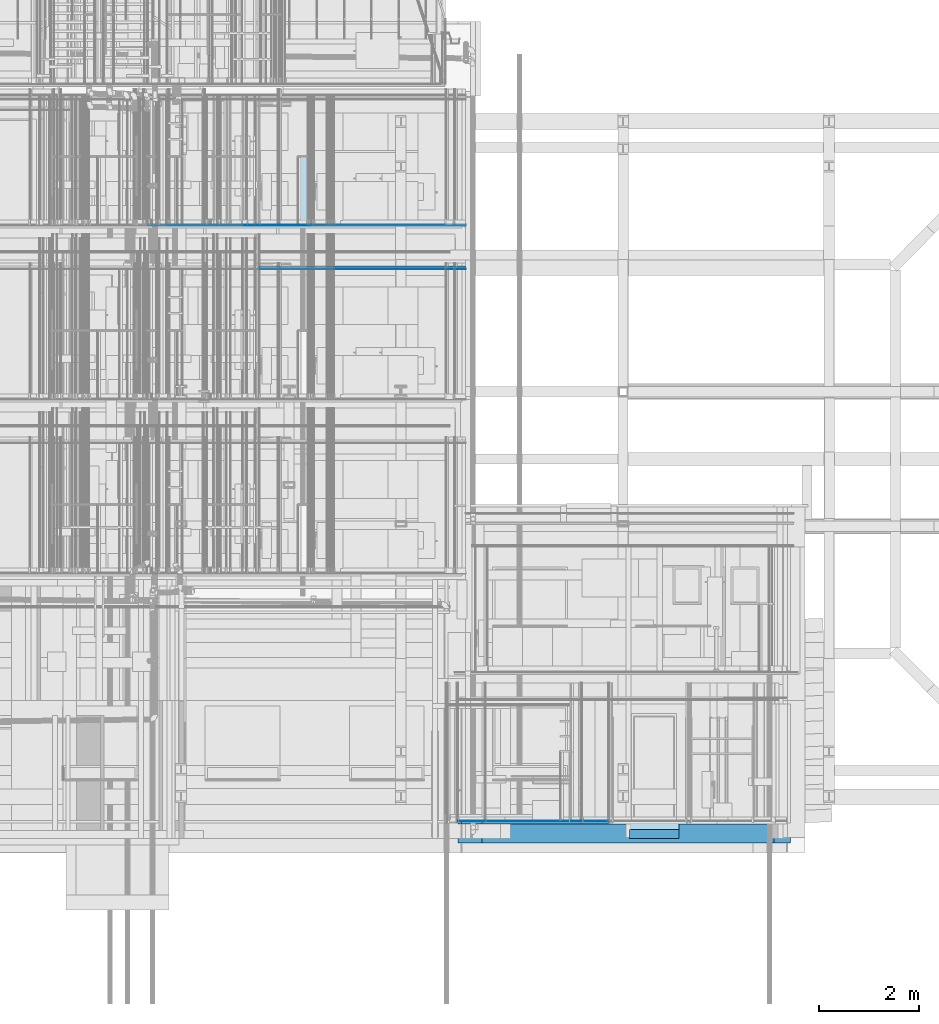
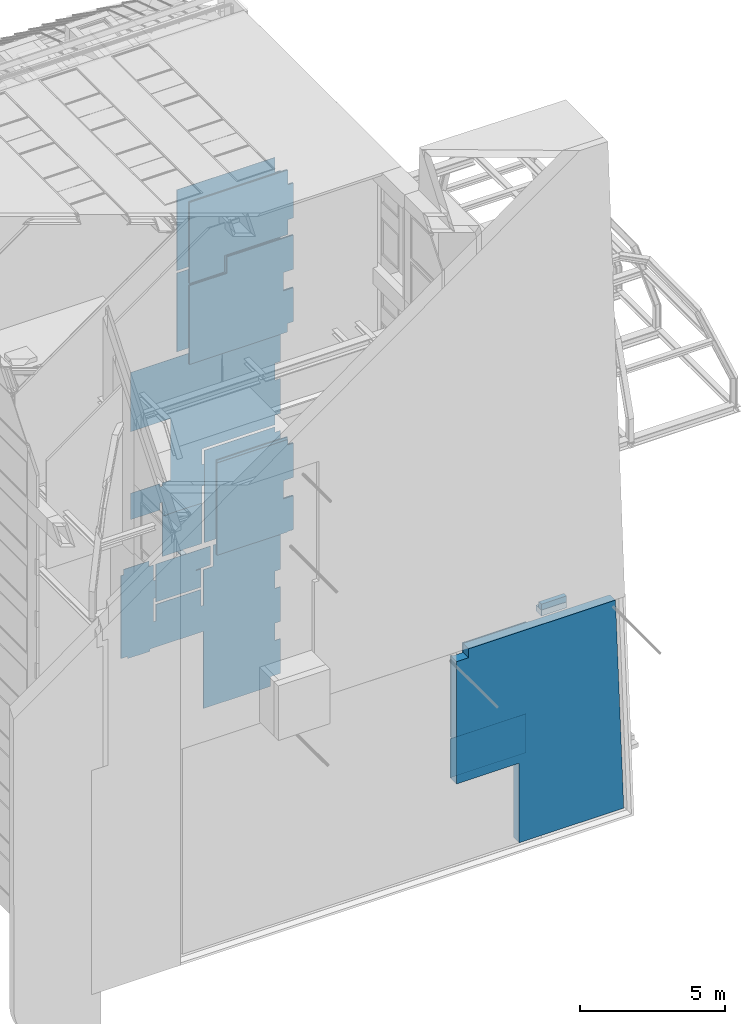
# One storey, part 258 of 583: 21 slabs.
"""IFC2X3 building model written with IfcOpenShell, lengths in metres."""

from ifc_helpers import new_model, entity, si_unit, converted_unit, derived_unit, money_unit, direction, frame, origin_with_axes, place, context, subcontext, project, spatial, faceted_brep, material, type_object, element, save


model = new_model("IFC2X3")

# Units and contexts
model_context = context("Model", 3, precision=1e-05, world=origin_with_axes(), true_north=direction((0.0, 1.0)))
body_context = subcontext(model_context, "Body", "Model", "MODEL_VIEW", scale=1.0)
ifc_project = project(units=[si_unit("LENGTHUNIT", "METRE"), si_unit("AREAUNIT", "SQUARE_METRE"), si_unit("VOLUMEUNIT", "CUBIC_METRE"), si_unit("ABSORBEDDOSEUNIT", "GRAY"), si_unit("AMOUNTOFSUBSTANCEUNIT", "MOLE"), si_unit("DOSEEQUIVALENTUNIT", "SIEVERT"), si_unit("ELECTRICCAPACITANCEUNIT", "FARAD"), si_unit("ELECTRICCHARGEUNIT", "COULOMB"), si_unit("ELECTRICCONDUCTANCEUNIT", "SIEMENS"), si_unit("ELECTRICCURRENTUNIT", "AMPERE"), si_unit("ELECTRICRESISTANCEUNIT", "OHM"), si_unit("ELECTRICVOLTAGEUNIT", "VOLT"), si_unit("ENERGYUNIT", "JOULE"), si_unit("FORCEUNIT", "NEWTON"), si_unit("FREQUENCYUNIT", "HERTZ"), si_unit("ILLUMINANCEUNIT", "LUX"), si_unit("INDUCTANCEUNIT", "HENRY"), si_unit("LUMINOUSFLUXUNIT", "LUMEN"), si_unit("LUMINOUSINTENSITYUNIT", "CANDELA"), si_unit("MAGNETICFLUXDENSITYUNIT", "TESLA"), si_unit("MAGNETICFLUXUNIT", "WEBER"), si_unit("MASSUNIT", "GRAM"), converted_unit("PLANEANGLEUNIT", "degree", entity("IfcReal", 0.0174532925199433), si_unit("PLANEANGLEUNIT", "RADIAN"), dimensions=[0, 0, 0, 0, 0, 0, 0]), si_unit("POWERUNIT", "WATT"), si_unit("PRESSUREUNIT", "PASCAL"), si_unit("RADIOACTIVITYUNIT", "BECQUEREL"), si_unit("SOLIDANGLEUNIT", "STERADIAN"), si_unit("THERMODYNAMICTEMPERATUREUNIT", "KELVIN"), si_unit("TIMEUNIT", "SECOND"), derived_unit("ACCELERATIONUNIT", [(si_unit("LENGTHUNIT", "METRE"), 1), (si_unit("TIMEUNIT", "SECOND"), -2)]), derived_unit("ANGULARVELOCITYUNIT", [(converted_unit("PLANEANGLEUNIT", "degree", entity("IfcReal", 0.0174532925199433), si_unit("PLANEANGLEUNIT", "RADIAN"), dimensions=[0, 0, 0, 0, 0, 0, 0]), 1), (si_unit("TIMEUNIT", "SECOND"), -1)]), derived_unit("CURVATUREUNIT", [(converted_unit("PLANEANGLEUNIT", "degree", entity("IfcReal", 0.0174532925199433), si_unit("PLANEANGLEUNIT", "RADIAN"), dimensions=[0, 0, 0, 0, 0, 0, 0]), 1), (si_unit("LENGTHUNIT", "METRE"), -1)]), derived_unit("DYNAMICVISCOSITYUNIT", [(si_unit("PRESSUREUNIT", "PASCAL"), 1), (si_unit("TIMEUNIT", "SECOND"), 1)]), derived_unit("HEATFLUXDENSITYUNIT", [(si_unit("POWERUNIT", "WATT"), 1), (si_unit("LENGTHUNIT", "METRE"), -2)]), derived_unit("HEATINGVALUEUNIT", [(si_unit("ENERGYUNIT", "JOULE"), 1), (si_unit("MASSUNIT", "GRAM"), -1)]), derived_unit("INTEGERCOUNTRATEUNIT", [(si_unit("TIMEUNIT", "SECOND"), -1)]), derived_unit("IONCONCENTRATIONUNIT", [(si_unit("MASSUNIT", "GRAM"), 1), (si_unit("VOLUMEUNIT", "CUBIC_METRE"), -1)]), derived_unit("ISOTHERMALMOISTURECAPACITYUNIT", [(si_unit("VOLUMEUNIT", "CUBIC_METRE"), 1), (si_unit("MASSUNIT", "GRAM"), -1)]), derived_unit("KINEMATICVISCOSITYUNIT", [(si_unit("AREAUNIT", "SQUARE_METRE"), 1), (si_unit("TIMEUNIT", "SECOND"), -1)]), derived_unit("LINEARFORCEUNIT", [(si_unit("FORCEUNIT", "NEWTON"), 1), (si_unit("LENGTHUNIT", "METRE"), -1)]), derived_unit("LINEARMOMENTUNIT", [(si_unit("FORCEUNIT", "NEWTON"), 1), (si_unit("LENGTHUNIT", "METRE"), -1)]), derived_unit("LINEARSTIFFNESSUNIT", [(si_unit("FORCEUNIT", "NEWTON"), 1), (si_unit("LENGTHUNIT", "METRE"), -1)]), derived_unit("LINEARVELOCITYUNIT", [(si_unit("LENGTHUNIT", "METRE"), 1), (si_unit("TIMEUNIT", "SECOND"), -1)]), derived_unit("LUMINOUSINTENSITYDISTRIBUTIONUNIT", [(si_unit("LUMINOUSINTENSITYUNIT", "CANDELA"), 1), (si_unit("LUMINOUSFLUXUNIT", "LUMEN"), -1)]), derived_unit("MASSDENSITYUNIT", [(si_unit("MASSUNIT", "GRAM"), 1), (si_unit("VOLUMEUNIT", "CUBIC_METRE"), -1)]), derived_unit("MASSFLOWRATEUNIT", [(si_unit("MASSUNIT", "GRAM"), 1), (si_unit("TIMEUNIT", "SECOND"), -1)]), derived_unit("MASSPERLENGTHUNIT", [(si_unit("MASSUNIT", "GRAM"), 1), (si_unit("LENGTHUNIT", "METRE"), -1)]), derived_unit("MODULUSOFELASTICITYUNIT", [(si_unit("FORCEUNIT", "NEWTON"), 1), (si_unit("AREAUNIT", "SQUARE_METRE"), -1)]), derived_unit("MODULUSOFLINEARSUBGRADEREACTIONUNIT", [(si_unit("FORCEUNIT", "NEWTON"), 1), (si_unit("LENGTHUNIT", "METRE"), -2)]), derived_unit("MODULUSOFROTATIONALSUBGRADEREACTIONUNIT", [(si_unit("FORCEUNIT", "NEWTON"), 1), (si_unit("LENGTHUNIT", "METRE"), 1)]), derived_unit("MODULUSOFSUBGRADEREACTIONUNIT", [(si_unit("FORCEUNIT", "NEWTON"), 1), (si_unit("VOLUMEUNIT", "CUBIC_METRE"), -1)]), derived_unit("MOISTUREDIFFUSIVITYUNIT", [(si_unit("VOLUMEUNIT", "CUBIC_METRE"), 1), (si_unit("TIMEUNIT", "SECOND"), -1)]), derived_unit("MOLECULARWEIGHTUNIT", [(si_unit("MASSUNIT", "GRAM"), 1), (si_unit("AMOUNTOFSUBSTANCEUNIT", "MOLE"), -1)]), derived_unit("PLANARFORCEUNIT", [(si_unit("FORCEUNIT", "NEWTON"), 1), (si_unit("LENGTHUNIT", "METRE"), -2)]), derived_unit("ROTATIONALFREQUENCYUNIT", [(si_unit("TIMEUNIT", "SECOND"), -1)]), derived_unit("ROTATIONALMASSUNIT", [(si_unit("MASSUNIT", "GRAM"), 1), (si_unit("LENGTHUNIT", "METRE"), 2)]), derived_unit("ROTATIONALSTIFFNESSUNIT", [(si_unit("FORCEUNIT", "NEWTON"), 1), (si_unit("LENGTHUNIT", "METRE"), 1), (converted_unit("PLANEANGLEUNIT", "degree", entity("IfcReal", 0.0174532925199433), si_unit("PLANEANGLEUNIT", "RADIAN"), dimensions=[0, 0, 0, 0, 0, 0, 0]), -1)]), derived_unit("SECTIONAREAINTEGRALUNIT", [(si_unit("LENGTHUNIT", "METRE"), 5)]), derived_unit("SECTIONMODULUSUNIT", [(si_unit("LENGTHUNIT", "METRE"), 3)]), derived_unit("SHEARMODULUSUNIT", [(si_unit("FORCEUNIT", "NEWTON"), 1), (si_unit("AREAUNIT", "SQUARE_METRE"), -1)]), derived_unit("SOUNDPOWERUNIT", [(si_unit("ENERGYUNIT", "JOULE"), 1), (si_unit("TIMEUNIT", "SECOND"), -1)]), derived_unit("SPECIFICHEATCAPACITYUNIT", [(si_unit("FORCEUNIT", "NEWTON"), 1), (si_unit("MASSUNIT", "GRAM"), -1), (si_unit("THERMODYNAMICTEMPERATUREUNIT", "KELVIN"), -1)]), derived_unit("TEMPERATUREGRADIENTUNIT", [(si_unit("THERMODYNAMICTEMPERATUREUNIT", "KELVIN"), 1), (si_unit("LENGTHUNIT", "METRE"), -1)]), derived_unit("THERMALADMITTANCEUNIT", [(si_unit("POWERUNIT", "WATT"), 1), (si_unit("AREAUNIT", "SQUARE_METRE"), -1), (si_unit("THERMODYNAMICTEMPERATUREUNIT", "KELVIN"), -1)]), derived_unit("THERMALCONDUCTANCEUNIT", [(si_unit("POWERUNIT", "WATT"), 1), (si_unit("LENGTHUNIT", "METRE"), -1), (si_unit("THERMODYNAMICTEMPERATUREUNIT", "KELVIN"), -1)]), derived_unit("THERMALEXPANSIONCOEFFICIENTUNIT", [(si_unit("THERMODYNAMICTEMPERATUREUNIT", "KELVIN"), -1)]), derived_unit("THERMALRESISTANCEUNIT", [(si_unit("AREAUNIT", "SQUARE_METRE"), 1), (si_unit("POWERUNIT", "WATT"), -1)]), derived_unit("THERMALTRANSMITTANCEUNIT", [(si_unit("POWERUNIT", "WATT"), 1), (si_unit("AREAUNIT", "SQUARE_METRE"), -1), (si_unit("THERMODYNAMICTEMPERATUREUNIT", "KELVIN"), -1)]), derived_unit("TORQUEUNIT", [(si_unit("FORCEUNIT", "NEWTON"), 1), (si_unit("LENGTHUNIT", "METRE"), 1)]), derived_unit("VAPORPERMEABILITYUNIT", [(si_unit("MASSUNIT", "GRAM"), 1), (si_unit("TIMEUNIT", "SECOND"), -1)]), derived_unit("VOLUMETRICFLOWRATEUNIT", [(si_unit("VOLUMEUNIT", "CUBIC_METRE"), 1), (si_unit("TIMEUNIT", "SECOND"), -1)]), derived_unit("WARPINGCONSTANTUNIT", [(si_unit("LENGTHUNIT", "METRE"), 6)]), derived_unit("WARPINGMOMENTUNIT", [(si_unit("FORCEUNIT", "NEWTON"), 1), (si_unit("LENGTHUNIT", "METRE"), 2)]), money_unit("GBP")], contexts=[model_context])

# Site, building, storey
site_placement = place(None, origin_with_axes())
site = spatial("IfcSite", under=ifc_project, at=site_placement, Name="Site", CompositionType="ELEMENT")
building_placement = place(site_placement, origin_with_axes())
building = spatial("IfcBuilding", under=site, at=building_placement, Name="Building01", CompositionType="ELEMENT")
storey_placement = place(building_placement, frame((0.0, 0.0, 20.78), z_axis=(0.0, 0.0, 1.0), x_axis=(1.0, 0.0, 0.0)))
storey = spatial("IfcBuildingStorey", under=building, at=storey_placement, Name="RL", CompositionType="ELEMENT", Elevation=20.78)

# Slabs
ifc_material_1 = material(Name="A_BSUK_Slabs")
slab_type_1 = type_object("IfcSlabType", Name="A-FloorsSlabs A_BSUK_Slabs", PredefinedType="FLOOR")
placement = place(storey_placement, frame((0.0, 0.0, -20.78), z_axis=(0.0, 0.0, 1.0), x_axis=(1.0, 0.0, 0.0)))
element("IfcSlab", 1, at=placement, inside=storey, type_object=slab_type_1, material=ifc_material_1, Name="A-FloorsSlabs A_BSUK_Slabs", ObjectType="CompoundSlabLeaf", context=body_context, shape_type="Brep", body=[
    faceted_brep([(18.083912, -0.162, 9.443418), (18.083912, 0.198, 9.443418), (19.083912, 0.198, 9.443418), (19.083912, -0.162, 9.443418), (18.083912, -0.162, 9.693418), (18.083912, 0.198, 9.693418), (19.083912, -0.162, 9.693418), (19.083912, 0.198, 9.693418)], [[[0, 1, 2, 3]], [[4, 5, 1, 0]], [[6, 7, 5, 4]], [[3, 2, 7, 6]], [[1, 5, 7, 2]], [[3, 6, 4, 0]]]),
])
element("IfcSlab", 2, at=placement, inside=storey, type_object=slab_type_1, material=ifc_material_1, Name="A-FloorsSlabs A_BSUK_Slabs", ObjectType="CompoundSlabLeaf", context=body_context, shape_type="Brep", body=[
    faceted_brep([(18.083912, -0.162, 9.693418), (18.083912, 0.018, 9.693418), (19.083912, 0.018, 9.693418), (19.083912, -0.162, 9.693418), (18.083912, -0.162, 9.943418), (18.083912, 0.018, 9.943418), (19.083912, -0.162, 9.943418), (19.083912, 0.018, 9.943418)], [[[0, 1, 2, 3]], [[4, 5, 1, 0]], [[6, 7, 5, 4]], [[3, 2, 7, 6]], [[1, 5, 7, 2]], [[3, 6, 4, 0]]]),
])
element("IfcSlab", 3, at=placement, inside=storey, type_object=slab_type_1, material=ifc_material_1, Name="A-FloorsSlabs A_BSUK_Slabs", ObjectType="CompoundSlabLeaf", context=body_context, shape_type="Brep", body=[
    faceted_brep([(17.143647, -0.252, 0.28086), (17.143647, 0.128, 0.28086), (21.315124, 0.128, 0.280897), (21.315124, -0.252, 0.280897), (17.143618, -0.252, 3.630525), (17.143618, 0.128, 3.630525), (14.65, -0.252, 3.630503), (14.65, 0.128, 3.630503), (14.649955, -0.252, 8.775264), (14.649955, 0.128, 8.775264), (15.127892, -0.252, 8.775269), (15.127892, 0.128, 8.775269), (15.127888, -0.252, 9.154265), (15.127888, 0.128, 9.154265), (20.985941, -0.252, 9.154317), (20.985941, 0.128, 9.154317)], [[[0, 1, 2, 3]], [[4, 5, 1, 0]], [[6, 7, 5, 4]], [[8, 9, 7, 6]], [[10, 11, 9, 8]], [[12, 13, 11, 10]], [[14, 15, 13, 12]], [[3, 2, 15, 14]], [[1, 5, 7, 9, 11, 13, 15, 2]], [[3, 14, 12, 10, 8, 6, 4, 0]]]),
])
ifc_material_2 = material(Name="A_BSUK_Carpet-Pile")
element("IfcSlab", 4, at=placement, inside=storey, type_object=slab_type_1, material=ifc_material_2, Name="A-FloorsSlabs A_BSUK_Slabs", ObjectType="CompoundSlabLeaf", context=body_context, shape_type="Brep", body=[
    faceted_brep([(14.65, 0.178, 5.354256), (14.65, 0.19, 5.354256), (17.663571, 0.19, 5.354256), (17.663571, 0.178, 5.354256), (14.65, 0.178, 8.775265), (14.65, 0.19, 8.775265), (14.721892, 0.178, 8.775265), (14.721892, 0.19, 8.775265), (14.721892, 0.178, 8.705291), (14.721892, 0.19, 8.705291), (15.127892, 0.178, 8.705291), (15.127892, 0.19, 8.705291), (15.127892, 0.178, 9.154265), (15.127892, 0.19, 9.154265), (17.663571, 0.178, 9.154265), (17.663571, 0.19, 9.154265)], [[[0, 1, 2, 3]], [[4, 5, 1, 0]], [[6, 7, 5, 4]], [[8, 9, 7, 6]], [[10, 11, 9, 8]], [[12, 13, 11, 10]], [[14, 15, 13, 12]], [[3, 2, 15, 14]], [[1, 5, 7, 9, 11, 13, 15, 2]], [[3, 14, 12, 10, 8, 6, 4, 0]]]),
])
ifc_material_3 = material(Name="A_BSUK_Parquet_Floor")
element("IfcSlab", 5, at=placement, inside=storey, type_object=slab_type_1, material=ifc_material_3, Name="A-FloorsSlabs A_BSUK_Slabs", ObjectType="CompoundSlabLeaf", context=body_context, shape_type="Brep", body=[
    faceted_brep([(17.663571, 0.178, 3.630525), (17.663571, 0.19, 3.630525), (17.663571, 0.19, 5.274256), (17.663571, 0.178, 5.274256), (14.65, 0.178, 3.630525), (14.65, 0.19, 3.630525), (14.65, 0.178, 5.274256), (14.65, 0.19, 5.274256)], [[[0, 1, 2, 3]], [[4, 5, 1, 0]], [[6, 7, 5, 4]], [[3, 2, 7, 6]], [[1, 5, 7, 2]], [[3, 6, 4, 0]]]),
])
element("IfcSlab", 6, at=placement, inside=storey, type_object=slab_type_1, material=ifc_material_3, Name="A-FloorsSlabs A_BSUK_Slabs", ObjectType="CompoundSlabLeaf", context=body_context, shape_type="Brep", body=[
    faceted_brep([(9.550704, 12.133, 7.289669), (9.550704, 12.145, 7.289669), (8.550704, 12.145, 7.289669), (8.550704, 12.133, 7.289669), (9.550704, 12.133, 7.064669), (9.550704, 12.145, 7.064669), (9.73567, 12.133, 7.064669), (9.73567, 12.145, 7.064669), (9.73567, 12.133, 6.398669), (9.73567, 12.145, 6.398669), (9.83067, 12.133, 6.398669), (9.83067, 12.145, 6.398669), (9.83067, 12.133, 5.648669), (9.83067, 12.145, 5.648669), (9.73567, 12.133, 5.648669), (9.73567, 12.145, 5.648669), (9.73567, 12.133, 4.669669), (9.73567, 12.145, 4.669669), (9.83067, 12.133, 4.669669), (9.83067, 12.145, 4.669669), (9.83067, 12.133, 5.369669), (9.83067, 12.145, 5.369669), (11.63067, 12.133, 5.369669), (11.63067, 12.145, 5.369669), (11.63067, 12.133, 4.669669), (11.63067, 12.145, 4.669669), (11.72567, 12.133, 4.669669), (11.72567, 12.145, 4.669669), (11.72567, 12.133, 4.719669), (11.72567, 12.145, 4.719669), (11.72567, 12.133, 6.169669), (11.72567, 12.145, 6.169669), (12.11067, 12.133, 6.169669), (12.11067, 12.145, 6.169669), (12.11067, 12.133, 7.064669), (12.11067, 12.145, 7.064669), (14.582, 12.133, 7.064669), (14.582, 12.145, 7.064669), (14.582, 12.133, 6.574876), (14.582, 12.145, 6.574876), (14.8, 12.133, 6.574876), (14.8, 12.145, 6.574876), (14.8, 12.133, 5.105), (14.8, 12.145, 5.105), (14.582, 12.133, 5.105), (14.582, 12.145, 5.105), (14.582, 12.133, 4.385), (14.582, 12.145, 4.385), (14.8, 12.133, 4.385), (14.8, 12.145, 4.385), (14.8, 12.133, 2.915), (14.8, 12.145, 2.915), (14.582, 12.133, 2.915), (14.582, 12.145, 2.915), (14.582, 12.133, 2.195), (14.582, 12.145, 2.195), (14.8, 12.133, 2.195), (14.8, 12.145, 2.195), (14.8, 12.133, 0.725), (14.8, 12.145, 0.725), (14.582, 12.133, 0.725), (14.582, 12.145, 0.725), (14.402, 12.133, 0.725), (14.402, 12.145, 0.725), (14.402, 12.133, 0.318), (14.402, 12.145, 0.318), (11.72567, 12.133, 0.318), (11.72567, 12.145, 0.318), (11.72567, 12.133, 3.569669), (11.72567, 12.145, 3.569669), (9.600704, 12.133, 3.569669), (9.600704, 12.145, 3.569669), (9.600704, 12.133, 3.474669), (9.600704, 12.145, 3.474669), (8.700704, 12.133, 3.474669), (8.700704, 12.145, 3.474669), (8.700704, 12.133, 3.569669), (8.700704, 12.145, 3.569669), (8.43567, 12.133, 3.569669), (8.43567, 12.145, 3.569669), (8.43567, 12.133, 7.064669), (8.43567, 12.145, 7.064669), (8.550704, 12.133, 7.064669), (8.550704, 12.145, 7.064669)], [[[0, 1, 2, 3]], [[4, 5, 1, 0]], [[6, 7, 5, 4]], [[8, 9, 7, 6]], [[10, 11, 9, 8]], [[12, 13, 11, 10]], [[14, 15, 13, 12]], [[16, 17, 15, 14]], [[18, 19, 17, 16]], [[20, 21, 19, 18]], [[22, 23, 21, 20]], [[24, 25, 23, 22]], [[26, 27, 25, 24]], [[28, 29, 27, 26]], [[30, 31, 29, 28]], [[32, 33, 31, 30]], [[34, 35, 33, 32]], [[36, 37, 35, 34]], [[38, 39, 37, 36]], [[40, 41, 39, 38]], [[42, 43, 41, 40]], [[44, 45, 43, 42]], [[46, 47, 45, 44]], [[48, 49, 47, 46]], [[50, 51, 49, 48]], [[52, 53, 51, 50]], [[54, 55, 53, 52]], [[56, 57, 55, 54]], [[58, 59, 57, 56]], [[60, 61, 59, 58]], [[62, 63, 61, 60]], [[64, 65, 63, 62]], [[66, 67, 65, 64]], [[68, 69, 67, 66]], [[70, 71, 69, 68]], [[72, 73, 71, 70]], [[74, 75, 73, 72]], [[76, 77, 75, 74]], [[78, 79, 77, 76]], [[80, 81, 79, 78]], [[82, 83, 81, 80]], [[3, 2, 83, 82]], [[1, 5, 7, 9, 11, 13, 15, 17, 19, 21, 23, 25, 27, 29, 31, 33, 35, 37, 39, 41, 43, 45, 47, 49, 51, 53, 55, 57, 59, 61, 63, 65, 67, 69, 71, 73, 75, 77, 79, 81, 83, 2]], [[3, 82, 80, 78, 76, 74, 72, 70, 68, 66, 64, 62, 60, 58, 56, 54, 52, 50, 48, 46, 44, 42, 40, 38, 36, 34, 32, 30, 28, 26, 24, 22, 20, 18, 16, 14, 12, 10, 8, 6, 4, 0]]]),
])
ifc_material_4 = material(Name="A_BSUK_Ceramic_FloorTiles")
element("IfcSlab", 7, at=placement, inside=storey, type_object=slab_type_1, material=ifc_material_4, Name="A-FloorsSlabs A_BSUK_Slabs", ObjectType="CompoundSlabLeaf", context=body_context, shape_type="Brep", body=[
    faceted_brep([(10.53067, 12.133, 5.464669), (10.53067, 12.145, 5.464669), (11.63067, 12.145, 5.464669), (11.63067, 12.133, 5.464669), (9.83067, 12.133, 5.464669), (9.83067, 12.145, 5.464669), (9.83067, 12.133, 7.064669), (9.83067, 12.145, 7.064669), (12.01567, 12.133, 7.064669), (12.01567, 12.145, 7.064669), (12.01567, 12.133, 6.264669), (12.01567, 12.145, 6.264669), (11.63067, 12.133, 6.264669), (11.63067, 12.145, 6.264669)], [[[0, 1, 2, 3]], [[4, 5, 1, 0]], [[6, 7, 5, 4]], [[8, 9, 7, 6]], [[10, 11, 9, 8]], [[12, 13, 11, 10]], [[3, 2, 13, 12]], [[1, 5, 7, 9, 11, 13, 2]], [[3, 12, 10, 8, 6, 4, 0]]]),
])
element("IfcSlab", 8, at=placement, inside=storey, type_object=slab_type_1, material=ifc_material_3, Name="A-FloorsSlabs A_BSUK_Slabs", ObjectType="CompoundSlabLeaf", context=body_context, shape_type="Brep", body=[
    faceted_brep([(9.200704, 12.133, 9.285), (9.200704, 12.145, 9.285), (9.992662, 12.145, 9.285), (9.992662, 12.133, 9.285), (8.82, 12.133, 9.285), (8.82, 12.145, 9.285), (8.82, 12.133, 10.393585), (8.82, 12.145, 10.393585), (9.992704, 12.133, 10.393585), (9.992704, 12.145, 10.393585), (9.992704, 12.133, 10.256435), (9.992704, 12.145, 10.256435), (10.087704, 12.133, 10.256435), (10.087704, 12.145, 10.256435), (10.087704, 12.133, 10.393871), (10.087704, 12.145, 10.393871), (10.415, 12.133, 10.393871), (10.415, 12.145, 10.393871), (10.415, 12.133, 12.988585), (10.415, 12.145, 12.988585), (8.82, 12.133, 12.988585), (8.82, 12.145, 12.988585), (8.82, 12.133, 15.483132), (8.82, 12.145, 15.483132), (14.582, 12.133, 15.483132), (14.582, 12.145, 15.483132), (14.582, 12.133, 15.335), (14.582, 12.145, 15.335), (14.8, 12.133, 15.335), (14.8, 12.145, 15.335), (14.8, 12.133, 13.865), (14.8, 12.145, 13.865), (14.582, 12.133, 13.865), (14.582, 12.145, 13.865), (14.582, 12.133, 13.145), (14.582, 12.145, 13.145), (14.8, 12.133, 13.145), (14.8, 12.145, 13.145), (14.8, 12.133, 11.675), (14.8, 12.145, 11.675), (14.582, 12.133, 11.675), (14.582, 12.145, 11.675), (14.582, 12.133, 11.275), (14.582, 12.145, 11.275), (11.668124, 12.133, 11.275), (11.668124, 12.145, 11.275), (11.668124, 12.133, 10.611), (11.668124, 12.145, 10.611), (11.763124, 12.133, 10.611), (11.763124, 12.145, 10.611), (11.763124, 12.133, 9.711), (11.763124, 12.145, 9.711), (11.668124, 12.133, 9.711), (11.668124, 12.145, 9.711), (11.668124, 12.133, 8.995), (11.668124, 12.145, 8.995), (10.087704, 12.133, 8.995), (10.087704, 12.145, 8.995), (10.087704, 12.133, 9.09), (10.087704, 12.145, 9.09), (10.087704, 12.133, 9.574871), (10.087704, 12.145, 9.574871), (9.992662, 12.133, 9.574871), (9.992662, 12.145, 9.574871)], [[[0, 1, 2, 3]], [[4, 5, 1, 0]], [[6, 7, 5, 4]], [[8, 9, 7, 6]], [[10, 11, 9, 8]], [[12, 13, 11, 10]], [[14, 15, 13, 12]], [[16, 17, 15, 14]], [[18, 19, 17, 16]], [[20, 21, 19, 18]], [[22, 23, 21, 20]], [[24, 25, 23, 22]], [[26, 27, 25, 24]], [[28, 29, 27, 26]], [[30, 31, 29, 28]], [[32, 33, 31, 30]], [[34, 35, 33, 32]], [[36, 37, 35, 34]], [[38, 39, 37, 36]], [[40, 41, 39, 38]], [[42, 43, 41, 40]], [[44, 45, 43, 42]], [[46, 47, 45, 44]], [[48, 49, 47, 46]], [[50, 51, 49, 48]], [[52, 53, 51, 50]], [[54, 55, 53, 52]], [[56, 57, 55, 54]], [[58, 59, 57, 56]], [[60, 61, 59, 58]], [[62, 63, 61, 60]], [[3, 2, 63, 62]], [[1, 5, 7, 9, 11, 13, 15, 17, 19, 21, 23, 25, 27, 29, 31, 33, 35, 37, 39, 41, 43, 45, 47, 49, 51, 53, 55, 57, 59, 61, 63, 2]], [[3, 62, 60, 58, 56, 54, 52, 50, 48, 46, 44, 42, 40, 38, 36, 34, 32, 30, 28, 26, 24, 22, 20, 18, 16, 14, 12, 10, 8, 6, 4, 0]]]),
])
element("IfcSlab", 9, at=placement, inside=storey, type_object=slab_type_1, material=ifc_material_3, Name="A-FloorsSlabs A_BSUK_Slabs", ObjectType="CompoundSlabLeaf", context=body_context, shape_type="Brep", body=[
    faceted_brep([(10.087704, 12.133, 7.289669), (10.087704, 12.145, 7.289669), (11.668124, 12.145, 7.289669), (11.668124, 12.133, 7.289669), (10.087704, 12.133, 8.995), (10.087704, 12.145, 8.995), (11.668124, 12.133, 8.995), (11.668124, 12.145, 8.995)], [[[0, 1, 2, 3]], [[4, 5, 1, 0]], [[6, 7, 5, 4]], [[3, 2, 7, 6]], [[1, 5, 7, 2]], [[3, 6, 4, 0]]]),
])
element("IfcSlab", 10, at=placement, inside=storey, type_object=slab_type_1, material=ifc_material_2, Name="A-FloorsSlabs A_BSUK_Slabs", ObjectType="CompoundSlabLeaf", context=body_context, shape_type="Brep", body=[
    faceted_brep([(11.763124, 12.133, 7.289669), (11.763124, 12.145, 7.289669), (14.582, 12.145, 7.289669), (14.582, 12.133, 7.289669), (11.763124, 12.133, 8.995), (11.763124, 12.145, 8.995), (11.763124, 12.133, 11.18), (11.763124, 12.145, 11.18), (14.582, 12.133, 11.18), (14.582, 12.145, 11.18), (14.582, 12.133, 10.955), (14.582, 12.145, 10.955), (14.8, 12.133, 10.955), (14.8, 12.145, 10.955), (14.8, 12.133, 9.508), (14.8, 12.145, 9.508), (14.402, 12.133, 9.508), (14.402, 12.145, 9.508), (14.402, 12.133, 8.742), (14.402, 12.145, 8.742), (14.8, 12.133, 8.742), (14.8, 12.145, 8.742), (14.8, 12.133, 7.295), (14.8, 12.145, 7.295), (14.582, 12.133, 7.295), (14.582, 12.145, 7.295)], [[[0, 1, 2, 3]], [[4, 5, 1, 0]], [[6, 7, 5, 4]], [[8, 9, 7, 6]], [[10, 11, 9, 8]], [[12, 13, 11, 10]], [[14, 15, 13, 12]], [[16, 17, 15, 14]], [[18, 19, 17, 16]], [[20, 21, 19, 18]], [[22, 23, 21, 20]], [[24, 25, 23, 22]], [[3, 2, 25, 24]], [[1, 5, 7, 9, 11, 13, 15, 17, 19, 21, 23, 25, 2]], [[3, 24, 22, 20, 18, 16, 14, 12, 10, 8, 6, 4, 0]]]),
])
element("IfcSlab", 11, at=placement, inside=storey, type_object=slab_type_1, material=ifc_material_2, Name="A-FloorsSlabs A_BSUK_Slabs", ObjectType="CompoundSlabLeaf", context=body_context, shape_type="Brep", body=[
    faceted_brep([(10.665, 12.133, 15.708132), (10.665, 12.145, 15.708132), (14.582, 12.145, 15.708132), (14.582, 12.133, 15.708132), (10.665, 12.133, 19.025284), (10.665, 12.145, 19.025284), (12.159378, 12.133, 19.025284), (12.159378, 12.145, 19.025284), (12.159378, 12.133, 19.715), (12.159378, 12.145, 19.715), (14.8, 12.133, 19.715), (14.8, 12.145, 19.715), (14.8, 12.133, 18.268), (14.8, 12.145, 18.268), (14.402, 12.133, 18.268), (14.402, 12.145, 18.268), (14.402, 12.133, 17.502), (14.402, 12.145, 17.502), (14.8, 12.133, 17.502), (14.8, 12.145, 17.502), (14.8, 12.133, 16.055), (14.8, 12.145, 16.055), (14.582, 12.133, 16.055), (14.582, 12.145, 16.055)], [[[0, 1, 2, 3]], [[4, 5, 1, 0]], [[6, 7, 5, 4]], [[8, 9, 7, 6]], [[10, 11, 9, 8]], [[12, 13, 11, 10]], [[14, 15, 13, 12]], [[16, 17, 15, 14]], [[18, 19, 17, 16]], [[20, 21, 19, 18]], [[22, 23, 21, 20]], [[3, 2, 23, 22]], [[1, 5, 7, 9, 11, 13, 15, 17, 19, 21, 23, 2]], [[3, 22, 20, 18, 16, 14, 12, 10, 8, 6, 4, 0]]]),
])
element("IfcSlab", 12, at=placement, inside=storey, type_object=slab_type_1, material=ifc_material_2, Name="A-FloorsSlabs A_BSUK_Slabs", ObjectType="CompoundSlabLeaf", context=body_context, shape_type="Brep", body=[
    faceted_brep([(12.064378, 12.133, 19.81), (12.064378, 12.145, 19.81), (14.582, 12.145, 19.81), (14.582, 12.133, 19.81), (12.064378, 12.133, 19.120284), (12.064378, 12.145, 19.120284), (10.665, 12.133, 19.120284), (10.665, 12.145, 19.120284), (10.665, 12.133, 22.53), (10.665, 12.145, 22.53), (14.582, 12.133, 22.53), (14.582, 12.145, 22.53), (14.582, 12.133, 21.905), (14.582, 12.145, 21.905), (14.8, 12.133, 21.905), (14.8, 12.145, 21.905), (14.8, 12.133, 20.435), (14.8, 12.145, 20.435), (14.582, 12.133, 20.435), (14.582, 12.145, 20.435)], [[[0, 1, 2, 3]], [[4, 5, 1, 0]], [[6, 7, 5, 4]], [[8, 9, 7, 6]], [[10, 11, 9, 8]], [[12, 13, 11, 10]], [[14, 15, 13, 12]], [[16, 17, 15, 14]], [[18, 19, 17, 16]], [[3, 2, 19, 18]], [[1, 5, 7, 9, 11, 13, 15, 17, 19, 2]], [[3, 18, 16, 14, 12, 10, 8, 6, 4, 0]]]),
])
ifc_material_5 = material(Name="A_BSUK_Ceramic_WallTiles")
element("IfcSlab", 13, at=placement, inside=storey, type_object=slab_type_1, material=ifc_material_5, Name="A-FloorsSlabs A_BSUK_Slabs", ObjectType="CompoundSlabLeaf", context=body_context, shape_type="Brep", body=[
    faceted_brep([(11.43067, 13.505, 6.239669), (11.43067, 13.505, 6.264669), (11.63067, 13.505, 6.264669), (11.63067, 13.505, 6.239669), (11.430672, 12.13, 6.239669), (11.430672, 12.13, 6.264669), (11.63067, 12.13, 6.239669), (11.63067, 12.13, 6.264669)], [[[0, 1, 2, 3]], [[4, 5, 1, 0]], [[6, 7, 5, 4]], [[3, 2, 7, 6]], [[1, 5, 7, 2]], [[3, 6, 4, 0]]]),
])
ifc_material_6 = material(Name="A_BSUK_CeilingSoffitFinishes_Suspended")
element("IfcSlab", 14, at=placement, inside=storey, type_object=slab_type_1, material=ifc_material_6, Name="A-FloorsSlabs A_BSUK_Slabs", ObjectType="CompoundSlabLeaf", context=body_context, shape_type="Brep", body=[
    faceted_brep([(12.013124, 11.255, 7.289669), (12.013124, 11.27, 7.289669), (14.567, 11.27, 7.289669), (14.567, 11.255, 7.289669), (11.763124, 11.255, 7.289669), (11.763124, 11.27, 7.289669), (11.763124, 11.255, 11.18), (11.763124, 11.27, 11.18), (14.582, 11.255, 11.18), (14.582, 11.27, 11.18), (14.582, 11.255, 10.955), (14.582, 11.27, 10.955), (14.8, 11.255, 10.955), (14.8, 11.27, 10.955), (14.8, 11.255, 9.508), (14.8, 11.27, 9.508), (14.402, 11.255, 9.508), (14.402, 11.27, 9.508), (14.402, 11.255, 8.742), (14.402, 11.27, 8.742), (14.8, 11.255, 8.742), (14.8, 11.27, 8.742), (14.8, 11.255, 7.31), (14.8, 11.27, 7.31), (14.567, 11.255, 7.31), (14.567, 11.27, 7.31)], [[[0, 1, 2, 3]], [[4, 5, 1, 0]], [[6, 7, 5, 4]], [[8, 9, 7, 6]], [[10, 11, 9, 8]], [[12, 13, 11, 10]], [[14, 15, 13, 12]], [[16, 17, 15, 14]], [[18, 19, 17, 16]], [[20, 21, 19, 18]], [[22, 23, 21, 20]], [[24, 25, 23, 22]], [[3, 2, 25, 24]], [[1, 5, 7, 9, 11, 13, 15, 17, 19, 21, 23, 25, 2]], [[3, 24, 22, 20, 18, 16, 14, 12, 10, 8, 6, 4, 0]]]),
])
element("IfcSlab", 15, at=placement, inside=storey, type_object=slab_type_1, material=ifc_material_6, Name="A-FloorsSlabs A_BSUK_Slabs", ObjectType="CompoundSlabLeaf", context=body_context, shape_type="Brep", body=[
    faceted_brep([(10.665, 11.255, 15.708132), (10.665, 11.27, 15.708132), (14.567, 11.27, 15.708132), (14.567, 11.255, 15.708132), (10.665, 11.255, 19.025284), (10.665, 11.27, 19.025284), (12.159378, 11.255, 19.025284), (12.159378, 11.27, 19.025284), (12.159378, 11.255, 19.715), (12.159378, 11.27, 19.715), (14.8, 11.255, 19.715), (14.8, 11.27, 19.715), (14.8, 11.255, 18.268), (14.8, 11.27, 18.268), (14.402, 11.255, 18.268), (14.402, 11.27, 18.268), (14.402, 11.255, 17.502), (14.402, 11.27, 17.502), (14.8, 11.255, 17.502), (14.8, 11.27, 17.502), (14.8, 11.255, 16.070124), (14.8, 11.27, 16.070124), (14.567, 11.255, 16.070124), (14.567, 11.27, 16.070124)], [[[0, 1, 2, 3]], [[4, 5, 1, 0]], [[6, 7, 5, 4]], [[8, 9, 7, 6]], [[10, 11, 9, 8]], [[12, 13, 11, 10]], [[14, 15, 13, 12]], [[16, 17, 15, 14]], [[18, 19, 17, 16]], [[20, 21, 19, 18]], [[22, 23, 21, 20]], [[3, 2, 23, 22]], [[1, 5, 7, 9, 11, 13, 15, 17, 19, 21, 23, 2]], [[3, 22, 20, 18, 16, 14, 12, 10, 8, 6, 4, 0]]]),
])
element("IfcSlab", 16, at=placement, inside=storey, type_object=slab_type_1, material=ifc_material_6, Name="A-FloorsSlabs A_BSUK_Slabs", ObjectType="CompoundSlabLeaf", context=body_context, shape_type="Brep", body=[
    faceted_brep([(12.064378, 11.255, 19.81), (12.064378, 11.27, 19.81), (14.582, 11.27, 19.81), (14.582, 11.255, 19.81), (12.064378, 11.255, 19.120284), (12.064378, 11.27, 19.120284), (10.665, 11.255, 19.120284), (10.665, 11.27, 19.120284), (10.665, 11.255, 22.53), (10.665, 11.27, 22.53), (14.582, 11.255, 22.53), (14.582, 11.27, 22.53), (14.582, 11.255, 21.905), (14.582, 11.27, 21.905), (14.8, 11.255, 21.905), (14.8, 11.27, 21.905), (14.8, 11.255, 20.435), (14.8, 11.27, 20.435), (14.582, 11.255, 20.435), (14.582, 11.27, 20.435)], [[[0, 1, 2, 3]], [[4, 5, 1, 0]], [[6, 7, 5, 4]], [[8, 9, 7, 6]], [[10, 11, 9, 8]], [[12, 13, 11, 10]], [[14, 15, 13, 12]], [[16, 17, 15, 14]], [[18, 19, 17, 16]], [[3, 2, 19, 18]], [[1, 5, 7, 9, 11, 13, 15, 17, 19, 2]], [[3, 18, 16, 14, 12, 10, 8, 6, 4, 0]]]),
])
ifc_material_7 = material(Name="A_BSUK_ExpandedPolystyreneBoards")
slab_type_2 = type_object("IfcSlabType", Name="A-FloorsSlabs A_BSUK_ExpandedPolystyreneBoards", PredefinedType="FLOOR")
element("IfcSlab", 17, at=placement, inside=storey, type_object=slab_type_2, material=ifc_material_7, Name="A-FloorsSlabs A_BSUK_ExpandedPolystyreneBoards", ObjectType="CompoundSlabLeaf", context=body_context, shape_type="Brep", body=[
    faceted_brep([(14.65, 0.128, 5.354256), (14.65, 0.178, 5.354256), (17.663571, 0.178, 5.354256), (17.663571, 0.128, 5.354256), (14.65, 0.128, 8.775265), (14.65, 0.178, 8.775265), (14.721892, 0.128, 8.775265), (14.721892, 0.178, 8.775265), (14.721892, 0.128, 8.705291), (14.721892, 0.178, 8.705291), (15.127892, 0.128, 8.705291), (15.127892, 0.178, 8.705291), (15.127892, 0.128, 9.154265), (15.127892, 0.178, 9.154265), (17.663571, 0.128, 9.154265), (17.663571, 0.178, 9.154265)], [[[0, 1, 2, 3]], [[4, 5, 1, 0]], [[6, 7, 5, 4]], [[8, 9, 7, 6]], [[10, 11, 9, 8]], [[12, 13, 11, 10]], [[14, 15, 13, 12]], [[3, 2, 15, 14]], [[1, 5, 7, 9, 11, 13, 15, 2]], [[3, 14, 12, 10, 8, 6, 4, 0]]]),
])
element("IfcSlab", 18, at=placement, inside=storey, type_object=slab_type_2, material=ifc_material_7, Name="A-FloorsSlabs A_BSUK_ExpandedPolystyreneBoards", ObjectType="CompoundSlabLeaf", context=body_context, shape_type="Brep", body=[
    faceted_brep([(17.663571, 0.128, 3.630525), (17.663571, 0.178, 3.630525), (17.663571, 0.178, 5.274256), (17.663571, 0.128, 5.274256), (14.65, 0.128, 3.630525), (14.65, 0.178, 3.630525), (14.65, 0.128, 5.274256), (14.65, 0.178, 5.274256)], [[[0, 1, 2, 3]], [[4, 5, 1, 0]], [[6, 7, 5, 4]], [[3, 2, 7, 6]], [[1, 5, 7, 2]], [[3, 6, 4, 0]]]),
])
element("IfcSlab", 19, at=placement, inside=storey, type_object=slab_type_2, material=ifc_material_7, Name="A-FloorsSlabs A_BSUK_ExpandedPolystyreneBoards", ObjectType="CompoundSlabLeaf", context=body_context, shape_type="Brep", body=[
    faceted_brep([(12.013124, 11.27, 7.289669), (12.013124, 11.32, 7.289669), (14.582, 11.32, 7.289669), (14.582, 11.27, 7.289669), (11.763124, 11.27, 7.289669), (11.763124, 11.32, 7.289669), (11.763124, 11.27, 11.28), (11.763124, 11.32, 11.28), (14.582, 11.27, 11.28), (14.582, 11.32, 11.28), (14.582, 11.27, 10.955), (14.582, 11.32, 10.955), (14.8, 11.27, 10.955), (14.8, 11.32, 10.955), (14.8, 11.27, 9.508), (14.8, 11.32, 9.508), (14.402, 11.27, 9.508), (14.402, 11.32, 9.508), (14.402, 11.27, 8.742), (14.402, 11.32, 8.742), (14.8, 11.27, 8.742), (14.8, 11.32, 8.742), (14.8, 11.27, 7.295), (14.8, 11.32, 7.295), (14.582, 11.27, 7.295), (14.582, 11.32, 7.295)], [[[0, 1, 2, 3]], [[4, 5, 1, 0]], [[6, 7, 5, 4]], [[8, 9, 7, 6]], [[10, 11, 9, 8]], [[12, 13, 11, 10]], [[14, 15, 13, 12]], [[16, 17, 15, 14]], [[18, 19, 17, 16]], [[20, 21, 19, 18]], [[22, 23, 21, 20]], [[24, 25, 23, 22]], [[3, 2, 25, 24]], [[1, 5, 7, 9, 11, 13, 15, 17, 19, 21, 23, 25, 2]], [[3, 24, 22, 20, 18, 16, 14, 12, 10, 8, 6, 4, 0]]]),
])
element("IfcSlab", 20, at=placement, inside=storey, type_object=slab_type_2, material=ifc_material_7, Name="A-FloorsSlabs A_BSUK_ExpandedPolystyreneBoards", ObjectType="CompoundSlabLeaf", context=body_context, shape_type="Brep", body=[
    faceted_brep([(10.665, 11.27, 15.708132), (10.665, 11.32, 15.708132), (14.582, 11.32, 15.708132), (14.582, 11.27, 15.708132), (10.665, 11.27, 19.025284), (10.665, 11.32, 19.025284), (12.159378, 11.27, 19.025284), (12.159378, 11.32, 19.025284), (12.159378, 11.27, 19.715), (12.159378, 11.32, 19.715), (14.8, 11.27, 19.715), (14.8, 11.32, 19.715), (14.8, 11.27, 18.268), (14.8, 11.32, 18.268), (14.402, 11.27, 18.268), (14.402, 11.32, 18.268), (14.402, 11.27, 17.502), (14.402, 11.32, 17.502), (14.8, 11.27, 17.502), (14.8, 11.32, 17.502), (14.8, 11.27, 16.055), (14.8, 11.32, 16.055), (14.582, 11.27, 16.055), (14.582, 11.32, 16.055)], [[[0, 1, 2, 3]], [[4, 5, 1, 0]], [[6, 7, 5, 4]], [[8, 9, 7, 6]], [[10, 11, 9, 8]], [[12, 13, 11, 10]], [[14, 15, 13, 12]], [[16, 17, 15, 14]], [[18, 19, 17, 16]], [[20, 21, 19, 18]], [[22, 23, 21, 20]], [[3, 2, 23, 22]], [[1, 5, 7, 9, 11, 13, 15, 17, 19, 21, 23, 2]], [[3, 22, 20, 18, 16, 14, 12, 10, 8, 6, 4, 0]]]),
])
element("IfcSlab", 21, at=placement, inside=storey, type_object=slab_type_2, material=ifc_material_7, Name="A-FloorsSlabs A_BSUK_ExpandedPolystyreneBoards", ObjectType="CompoundSlabLeaf", context=body_context, shape_type="Brep", body=[
    faceted_brep([(12.064378, 11.27, 19.81), (12.064378, 11.32, 19.81), (14.582, 11.32, 19.81), (14.582, 11.27, 19.81), (12.064378, 11.27, 19.120284), (12.064378, 11.32, 19.120284), (10.665, 11.27, 19.120284), (10.665, 11.32, 19.120284), (10.665, 11.27, 22.53), (10.665, 11.32, 22.53), (14.582, 11.27, 22.53), (14.582, 11.32, 22.53), (14.582, 11.27, 21.905), (14.582, 11.32, 21.905), (14.8, 11.27, 21.905), (14.8, 11.32, 21.905), (14.8, 11.27, 20.435), (14.8, 11.32, 20.435), (14.582, 11.27, 20.435), (14.582, 11.32, 20.435)], [[[0, 1, 2, 3]], [[4, 5, 1, 0]], [[6, 7, 5, 4]], [[8, 9, 7, 6]], [[10, 11, 9, 8]], [[12, 13, 11, 10]], [[14, 15, 13, 12]], [[16, 17, 15, 14]], [[18, 19, 17, 16]], [[3, 2, 19, 18]], [[1, 5, 7, 9, 11, 13, 15, 17, 19, 2]], [[3, 18, 16, 14, 12, 10, 8, 6, 4, 0]]]),
])

save(model, "model.ifc")
